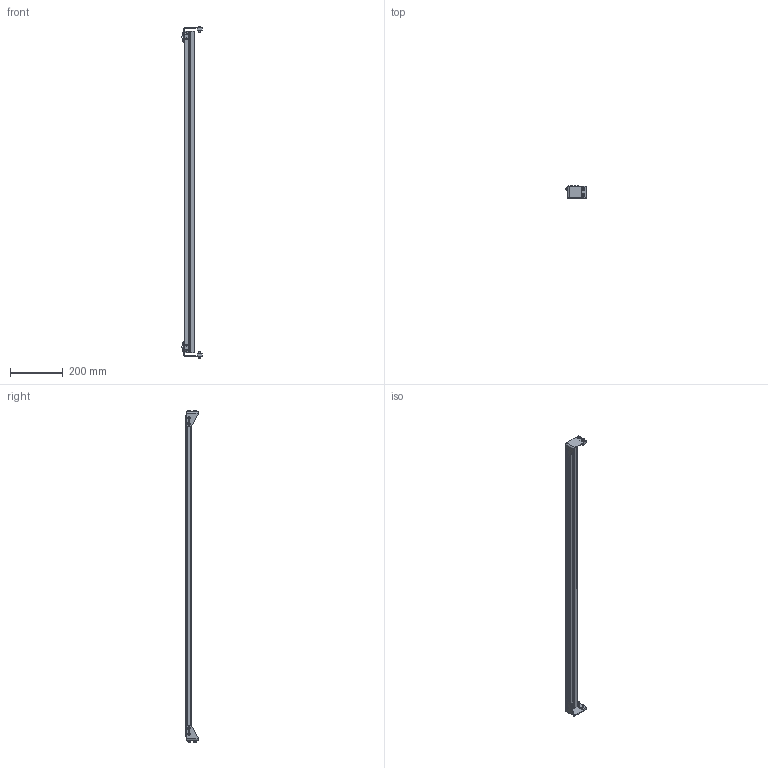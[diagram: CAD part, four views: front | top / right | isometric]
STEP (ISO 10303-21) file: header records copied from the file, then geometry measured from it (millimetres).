
FILE_DESCRIPTION((''),'2;1');
FILE_NAME('3076WWM_2_ASM','2023-03-15T',('jenni.wallner'),(''),'PRO/ENGINEER BY PARAMETRIC TECHNOLOGY CORPORATION, 2012420','PRO/ENGINEER BY PARAMETRIC TECHNOLOGY CORPORATION, 2012420','');
FILE_SCHEMA(('CONFIG_CONTROL_DESIGN'));
Length unit declared in the file: inch
Products named in the file (4): 677721_1; BRACKET_L; BRACKET_R; 3076WWM_2_ASM
Assembly tree (3 placements, depth 2):
  3076WWM_2_ASM
    677721_1
    BRACKET_L
    BRACKET_R
Bounding box: 76.2 x 46.13 x 1256.02 mm (x, y, z)
Volume: 539237.9 mm3; surface area: 323762.2 mm2
Topology: 3 solids, 3 shells, 296 faces, 730 edges, 476 vertices
Faces by surface type: plane 188, cylinder 76, cone 32
Entity records: 8834 total; most frequent: CARTESIAN_POINT 1525, DIRECTION 1512, ORIENTED_EDGE 1460, EDGE_CURVE 730, VECTOR 538, LINE 538, AXIS2_PLACEMENT_3D 487, VERTEX_POINT 476
